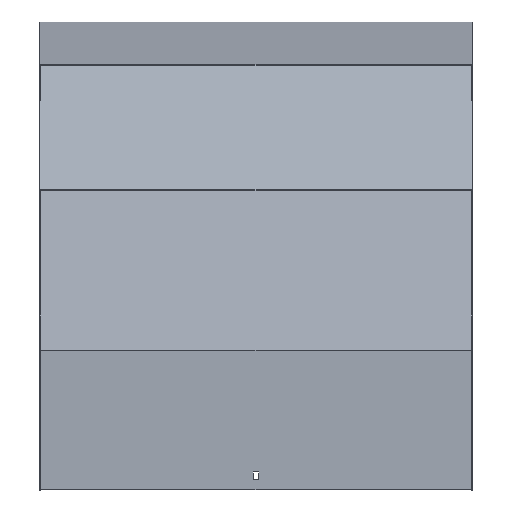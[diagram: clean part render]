
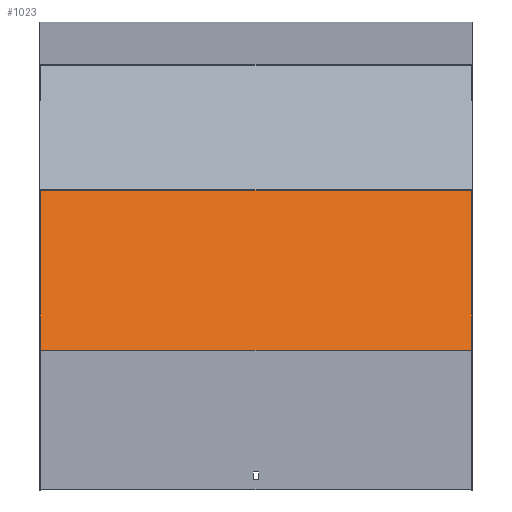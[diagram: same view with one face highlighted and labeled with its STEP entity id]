
A CAD part, top view. The second image highlights one B-rep face of the part: STEP entity #1023.
In plain terms, the highlighted planar face has unit normal (0, 0.259, 0.966).
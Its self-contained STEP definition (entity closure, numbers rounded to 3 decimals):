
#5 = CARTESIAN_POINT ( 'NONE',  ( -251.5, -361.831, 544.464 ) ) ;
#50 = EDGE_LOOP ( 'NONE', ( #876, #762, #497, #823 ) ) ;
#52 = PLANE ( 'NONE',  #202 ) ;
#93 = CARTESIAN_POINT ( 'NONE',  ( 251.5, -180.591, 495.901 ) ) ;
#138 = DIRECTION ( 'NONE',  ( -1., 0., 0. ) ) ;
#156 = DIRECTION ( 'NONE',  ( -1., 0., 0. ) ) ;
#166 = LINE ( 'NONE', #513, #1085 ) ;
#188 = VERTEX_POINT ( 'NONE', #1094 ) ;
#202 = AXIS2_PLACEMENT_3D ( 'NONE', #664, #909, #312 ) ;
#209 = VERTEX_POINT ( 'NONE', #929 ) ;
#242 = CARTESIAN_POINT ( 'NONE',  ( 251.5, -175.415, 494.514 ) ) ;
#312 = DIRECTION ( 'NONE',  ( 0., 0.966, -0.259 ) ) ;
#398 = VECTOR ( 'NONE', #156, 1000. ) ;
#415 = CARTESIAN_POINT ( 'NONE',  ( 251.5, -175.415, 494.514 ) ) ;
#437 = EDGE_CURVE ( 'NONE', #188, #848, #166, .T. ) ;
#442 = VECTOR ( 'NONE', #1036, 1000. ) ;
#481 = FACE_OUTER_BOUND ( 'NONE', #50, .T. ) ;
#497 = ORIENTED_EDGE ( 'NONE', *, *, #802, .F. ) ;
#513 = CARTESIAN_POINT ( 'NONE',  ( -251.5, -180.591, 495.901 ) ) ;
#543 = VECTOR ( 'NONE', #138, 1000. ) ;
#595 = DIRECTION ( 'NONE',  ( 0., -0.966, 0.259 ) ) ;
#664 = CARTESIAN_POINT ( 'NONE',  ( 251.5, -180.591, 495.901 ) ) ;
#753 = LINE ( 'NONE', #415, #398 ) ;
#755 = LINE ( 'NONE', #1077, #543 ) ;
#762 = ORIENTED_EDGE ( 'NONE', *, *, #1043, .F. ) ;
#782 = LINE ( 'NONE', #93, #442 ) ;
#802 = EDGE_CURVE ( 'NONE', #905, #209, #782, .T. ) ;
#823 = ORIENTED_EDGE ( 'NONE', *, *, #991, .T. ) ;
#848 = VERTEX_POINT ( 'NONE', #5 ) ;
#876 = ORIENTED_EDGE ( 'NONE', *, *, #437, .T. ) ;
#905 = VERTEX_POINT ( 'NONE', #242 ) ;
#909 = DIRECTION ( 'NONE',  ( 0., -0.259, -0.966 ) ) ;
#929 = CARTESIAN_POINT ( 'NONE',  ( 251.5, -361.831, 544.464 ) ) ;
#991 = EDGE_CURVE ( 'NONE', #905, #188, #753, .T. ) ;
#1023 = ADVANCED_FACE ( 'NONE', ( #481 ), #52, .F. ) ;
#1036 = DIRECTION ( 'NONE',  ( 0., -0.966, 0.259 ) ) ;
#1043 = EDGE_CURVE ( 'NONE', #209, #848, #755, .T. ) ;
#1077 = CARTESIAN_POINT ( 'NONE',  ( 251.5, -361.831, 544.464 ) ) ;
#1085 = VECTOR ( 'NONE', #595, 1000. ) ;
#1094 = CARTESIAN_POINT ( 'NONE',  ( -251.5, -175.415, 494.514 ) ) ;
